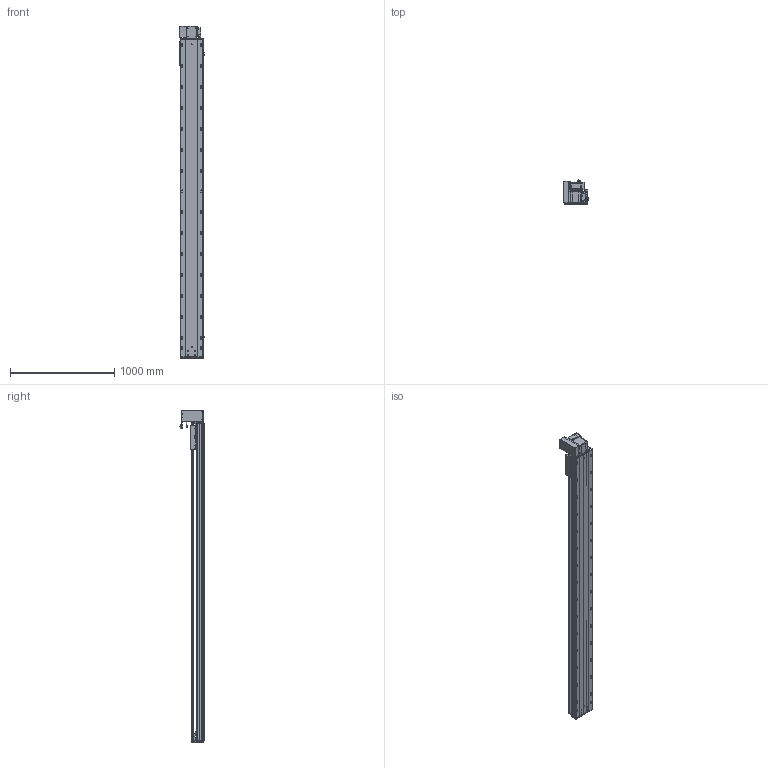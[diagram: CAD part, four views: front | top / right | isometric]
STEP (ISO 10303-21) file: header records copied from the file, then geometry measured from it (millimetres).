
FILE_DESCRIPTION (( 'STEP AP203' ), '1' );
FILE_NAME ('RY220-T-300-UL.SLDASM_2700.step', '2022-07-25T08:35:56', ( '' ), ( '' ), 'SwSTEP 2.0', 'SolidWorks 2016', '' );
FILE_SCHEMA (( 'CONFIG_CONTROL_DESIGN' ));
Length unit declared in the file: millimetre
Products named in the file (14): RY220-同步轮副支撑座6304×2; RY220翋肮祭謫釱; 怢湛750W_ECMA-CX0807ES; RY220-俋离672覜茼んえ; RY220-T-300-UL.SLDASM_2700; 滅袉蝶18-15; RY220-T菁釱-300_2700; RY220圉猾敕々湍臏賑輸; 110A-T-肮祭謫釱傷裔; 覜茼ん672; RY220-T-蛌殏萇儂假蚾啣(750W); RY220-T-湍謫欶(鍼踢); RY220-T-300-奻裔啣_2700; RY220翋肮祭謫裔啣
Assembly tree (18 placements, depth 2):
  RY220-T-300-UL.SLDASM_2700
    RY220-T菁釱-300_2700
    RY220翋肮祭謫釱
    覜茼ん672  x3
    RY220圉猾敕々湍臏賑輸
    RY220-T-300-奻裔啣_2700
    RY220-俋离672覜茼んえ
    滅袉蝶18-15  x3
    RY220翋肮祭謫裔啣  x2
    110A-T-肮祭謫釱傷裔
    怢湛750W_ECMA-CX0807ES
    RY220-T-湍謫欶(鍼踢)
    RY220-T-蛌殏萇儂假蚾啣(750W)
    RY220-同步轮副支撑座6304×2
Bounding box: 239.7 x 231.74 x 3180.5 mm (x, y, z)
Volume: 23260264.3 mm3; surface area: 7166652.2 mm2
Topology: 19 solids, 19 shells, 2974 faces, 8227 edges, 5158 vertices
Faces by surface type: cylinder 1462, plane 1069, cone 361, bspline 56, sphere 16, torus 10
Entity records: 99203 total; most frequent: CARTESIAN_POINT 28019, ORIENTED_EDGE 14714, DIRECTION 14184, EDGE_CURVE 7357, AXIS2_PLACEMENT_3D 5112, VERTEX_POINT 4782, LINE 3960, VECTOR 3960
